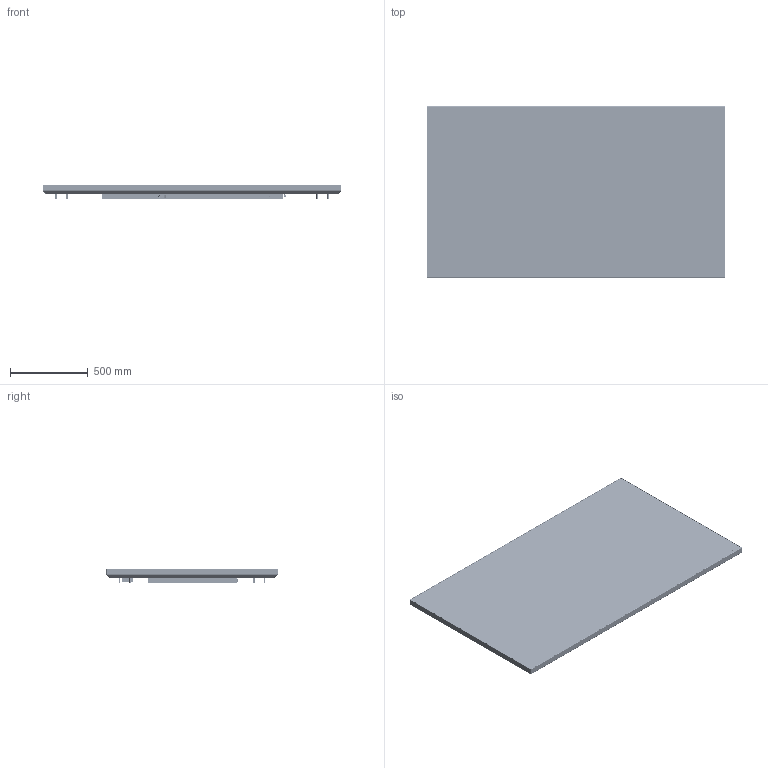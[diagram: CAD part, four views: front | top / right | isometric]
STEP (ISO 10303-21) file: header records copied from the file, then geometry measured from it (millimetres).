
FILE_DESCRIPTION (( 'STEP AP203' ), '1' );
FILE_NAME ('Hayden URX85 ERO Panel 3D.STEP', '2021-01-18T19:30:39', ( '' ), ( '' ), 'SwSTEP 2.0', 'SolidWorks 2019', '' );
FILE_SCHEMA (( 'CONFIG_CONTROL_DESIGN' ));
Length unit declared in the file: millimetre
Products named in the file (69): 572-5387; 572-5345; 572-5386; PEM BSO-3.5M3-14 ZI--N_PEM BSO-3.5M3-14 ZI--N; B18.6.7M - M3 x 0.5 x 6 Type I Cross Recessed PHMS --6N BLK_B18.6.7M - M3 x 0.5 x 6 Type I Cross Recessed PHMS --6N; 572-5398; 591-0362_bonded; PEM BSO-M5-10 ZI--N; 82-19-180-16; B18.6.7M - M3 x 0.5 x 6 Type I Cross Recessed FHMS --6N BLK_PreviewCfg; PF11MF-M4-1; PEM S-M4-1 ZI--N; PEM S-M3-1 ZI--N_PEM S-M3-1 ZI--N; Hayden URX85 ERO Panel 3D; PEM BSO-3.5M3-10 ZI--N_PEM BSO-3.5M3-10 ZI--N; B18.6.7M - M4 x 0.7 x 6 Type I Cross Recessed PHMS --6N BLK_B18.6.7M - M4 x 0.7 x 6 Type I Cross Recessed PHMS BLK --6N; 572-5346; 572-5397_Masked; 572-5339_Masked; PEM PF11-M4-1-ZI--N; Hayden common tray_Hayden 85; 572-5378; B18.6.7M - M4 x 0.7 x 6 Type I Cross Recessed FHMS --6N BLK_B18.6.7M - M4 x 0.7 x 6 Type I Cross Recessed FHMS --6N; PLP2-125 (Lens); 105-0018-50; 105-0022-00; RIVET - 125 BUTTON HEAD; 437-2443; 82-35-302-15 base; PEM FH-M6-15 ZI--N_PEM FH-M6-15 ZI--N; 10SS6-B2AHR-QPB; 82-35-302-15 spring; 572-5385; 526-0564_Molded; 572-5304_Masked; 540-0192; SPACER, 0.5in OD x 0.25in ID x 1.1875in LG_92414A437; PEM S-M3-0 ZI--N_PEM S-M3-0 ZI--N; PEM SO-3.5M3-8 ZI--N_PEM SO-3.5M3-8 ZI--N; Shell Version of 944-2980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
Assembly tree (255 placements, depth 6):
  Hayden URX85 ERO Panel 3D
    assy_module_p850qvn02v1_v3_190621_Glass_Only
    927-0064
      591-0362_bonded
    Hayden common tray_Hayden 85
      437-2443
        572-5304
          572-5304_Masked
          PEM BSO-3.5M3-14 ZI--N_PEM BSO-3.5M3-14 ZI--N  x12
          PEM SO-3.5M3-8 ZI--N_PEM SO-3.5M3-8 ZI--N  x9
          PEM BSO-3.5M3-10 ZI--N_PEM BSO-3.5M3-10 ZI--N  x6
          PEM PF11-M4-1-ZI--N  x4
          105-0018-50
            82-35-302-15 spring
            82-35-302-15 base
          RIVET - 093 C''SINK  x2
          PEM FH-M6-15 ZI--N_PEM FH-M6-15 ZI--N
          PEM S-M4-1 ZI--N  x2
          PEM S-M3-1 ZI--N_PEM S-M3-1 ZI--N  x2
          PEM TPS-4mm-16  x2
        572-5339_Masked
        B18.6.7M - M4 x 0.7 x 6 Type I Cross Recessed PHMS --6N BLK_B18.6.7M - M4 x 0.7 x 6 Type I Cross Recessed PHMS BLK --6N  x2
        572-5345
          572-5345
          PEM SO-M3-3 ZI--N_PEM SO-M3-3 ZI--N  x2
        572-5345
          572-5345
          PEM SO-M3-3 ZI--N_PEM SO-M3-3 ZI--N  x2
        572-5345
          572-5345
          PEM SO-M3-3 ZI--N_PEM SO-M3-3 ZI--N  x2
        572-5345
          572-5345
          PEM SO-M3-3 ZI--N_PEM SO-M3-3 ZI--N  x2
        572-5345
          572-5345
          PEM SO-M3-3 ZI--N_PEM SO-M3-3 ZI--N  x2
        572-5345
          572-5345
          PEM SO-M3-3 ZI--N_PEM SO-M3-3 ZI--N  x2
        RIVET - 125 BUTTON HEAD  x12
      10SS6-B2AHR-QPB
      572-5387
        572-5387
        PF11MF-M4-1  x2
        PEM SO-3.5M3-4 ZI--N_PEM SO-3.5M3-4 ZI--N  x8
        PEM TPS-4mm-8_PreviewCfg  x2
        105-0020-00
        105-0022-00
        82-19-180-16
        B18.6.7M - M3 x 0.5 x 6 Type I Cross Recessed FHMS --6N_B18.6.7M - M3 x 0.5 x 6 Type I Cross Recessed FHMS --6N  x8
        B18.22M - Plain washer, 3 mm, wide_B18.22M - Plain washer, 3 mm, wide  x8
    572-5385  x2
    572-5386  x2
    B18.6.7M - M4 x 0.7 x 6 Type I Cross Recessed FHMS --6N BLK_B18.6.7M - M4 x 0.7 x 6 Type I Cross Recessed FHMS --6N  x40
    526-0564_Molded  x4
    572-5378
      572-5378
      SPACER, 0.5in OD x 0.25in ID x 1.1875in LG_92414A437  x4
    572-5378
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Bounding box: 1919.08 x 1100.08 x 94.33 mm (x, y, z)
Volume: 9340797.4 mm3; surface area: 14845277.8 mm2
Topology: 233 solids, 358 shells, 12937 faces, 36269 edges, 24186 vertices
Faces by surface type: plane 7061, cylinder 3682, bspline 1061, cone 811, torus 206, sphere 116
Entity records: 303316 total; most frequent: CARTESIAN_POINT 90157, ORIENTED_EDGE 41369, DIRECTION 38375, EDGE_CURVE 23074, VERTEX_POINT 16152, VECTOR 15281, LINE 15281, AXIS2_PLACEMENT_3D 11547
